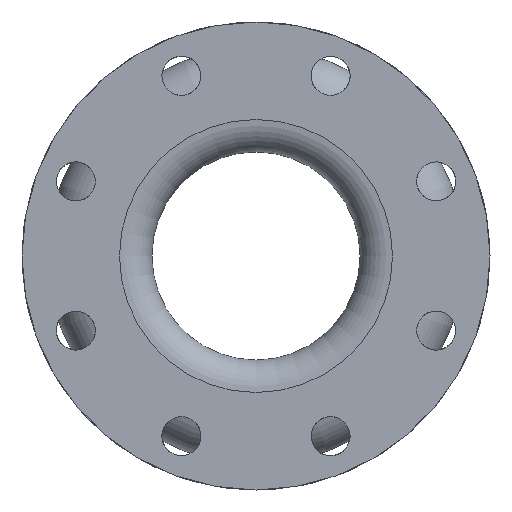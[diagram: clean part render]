
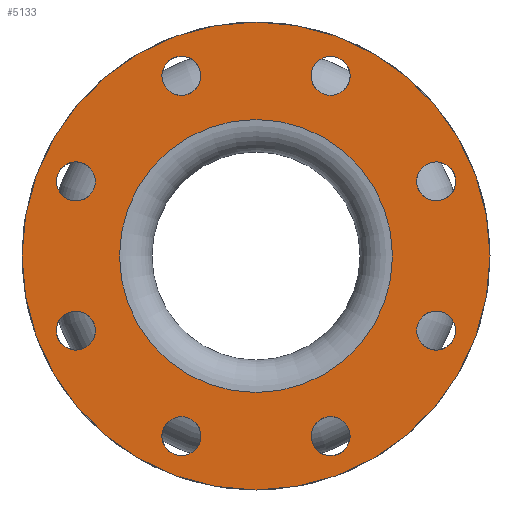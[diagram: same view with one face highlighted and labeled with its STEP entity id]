
A CAD part, left-side view. The second image highlights one B-rep face of the part: STEP entity #5133.
In plain terms, the highlighted planar face has unit normal (-1, 0, 0).
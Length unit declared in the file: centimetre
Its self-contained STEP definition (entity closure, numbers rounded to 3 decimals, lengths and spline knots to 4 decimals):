
#82=FACE_BOUND('',#891,.T.);
#83=FACE_BOUND('',#892,.T.);
#84=FACE_BOUND('',#893,.T.);
#85=FACE_BOUND('',#894,.T.);
#86=FACE_BOUND('',#895,.T.);
#87=FACE_BOUND('',#896,.T.);
#88=FACE_BOUND('',#897,.T.);
#89=FACE_BOUND('',#898,.T.);
#90=FACE_BOUND('',#899,.T.);
#91=FACE_BOUND('',#900,.T.);
#891=EDGE_LOOP('',(#3907));
#892=EDGE_LOOP('',(#3908));
#893=EDGE_LOOP('',(#3909));
#894=EDGE_LOOP('',(#3910));
#895=EDGE_LOOP('',(#3911));
#896=EDGE_LOOP('',(#3912));
#897=EDGE_LOOP('',(#3913));
#898=EDGE_LOOP('',(#3914));
#899=EDGE_LOOP('',(#3915));
#900=EDGE_LOOP('',(#3916));
#1316=CIRCLE('',#5601,0.9525);
#1318=CIRCLE('',#5604,0.9525);
#1320=CIRCLE('',#5607,0.9525);
#1322=CIRCLE('',#5610,0.9525);
#1324=CIRCLE('',#5613,0.9525);
#1326=CIRCLE('',#5616,0.9525);
#1328=CIRCLE('',#5619,0.9525);
#1330=CIRCLE('',#5622,0.9525);
#1358=CIRCLE('',#5669,6.6675);
#1359=CIRCLE('',#5671,11.43);
#2250=VERTEX_POINT('',#8473);
#2252=VERTEX_POINT('',#8478);
#2254=VERTEX_POINT('',#8483);
#2256=VERTEX_POINT('',#8488);
#2258=VERTEX_POINT('',#8493);
#2260=VERTEX_POINT('',#8498);
#2262=VERTEX_POINT('',#8503);
#2264=VERTEX_POINT('',#8508);
#2292=VERTEX_POINT('',#8583);
#2293=VERTEX_POINT('',#8586);
#2842=EDGE_CURVE('',#2250,#2250,#1316,.T.);
#2844=EDGE_CURVE('',#2252,#2252,#1318,.T.);
#2846=EDGE_CURVE('',#2254,#2254,#1320,.T.);
#2848=EDGE_CURVE('',#2256,#2256,#1322,.T.);
#2850=EDGE_CURVE('',#2258,#2258,#1324,.T.);
#2852=EDGE_CURVE('',#2260,#2260,#1326,.T.);
#2854=EDGE_CURVE('',#2262,#2262,#1328,.T.);
#2856=EDGE_CURVE('',#2264,#2264,#1330,.T.);
#2884=EDGE_CURVE('',#2292,#2292,#1358,.T.);
#2885=EDGE_CURVE('',#2293,#2293,#1359,.T.);
#3907=ORIENTED_EDGE('',*,*,#2842,.T.);
#3908=ORIENTED_EDGE('',*,*,#2844,.T.);
#3909=ORIENTED_EDGE('',*,*,#2846,.T.);
#3910=ORIENTED_EDGE('',*,*,#2848,.T.);
#3911=ORIENTED_EDGE('',*,*,#2850,.T.);
#3912=ORIENTED_EDGE('',*,*,#2852,.T.);
#3913=ORIENTED_EDGE('',*,*,#2854,.T.);
#3914=ORIENTED_EDGE('',*,*,#2856,.T.);
#3915=ORIENTED_EDGE('',*,*,#2885,.F.);
#3916=ORIENTED_EDGE('',*,*,#2884,.T.);
#4649=PLANE('',#5670);
#5133=ADVANCED_FACE('',(#82,#83,#84,#85,#86,#87,#88,#89,#90,#91),#4649,
 .T.);
#5601=AXIS2_PLACEMENT_3D('',#8474,#6781,#6782);
#5604=AXIS2_PLACEMENT_3D('',#8479,#6787,#6788);
#5607=AXIS2_PLACEMENT_3D('',#8484,#6793,#6794);
#5610=AXIS2_PLACEMENT_3D('',#8489,#6799,#6800);
#5613=AXIS2_PLACEMENT_3D('',#8494,#6805,#6806);
#5616=AXIS2_PLACEMENT_3D('',#8499,#6811,#6812);
#5619=AXIS2_PLACEMENT_3D('',#8504,#6817,#6818);
#5622=AXIS2_PLACEMENT_3D('',#8509,#6823,#6824);
#5669=AXIS2_PLACEMENT_3D('',#8584,#6917,#6918);
#5670=AXIS2_PLACEMENT_3D('',#8585,#6919,#6920);
#5671=AXIS2_PLACEMENT_3D('',#8587,#6921,#6922);
#6781=DIRECTION('center_axis',(1.,0.,0.));
#6782=DIRECTION('ref_axis',(0.,-0.707,0.707));
#6787=DIRECTION('center_axis',(1.,0.,0.));
#6788=DIRECTION('ref_axis',(0.,0.,1.));
#6793=DIRECTION('center_axis',(1.,0.,0.));
#6794=DIRECTION('ref_axis',(0.,0.707,0.707));
#6799=DIRECTION('center_axis',(1.,0.,0.));
#6800=DIRECTION('ref_axis',(0.,1.,0.));
#6805=DIRECTION('center_axis',(1.,0.,0.));
#6806=DIRECTION('ref_axis',(0.,0.707,-0.707));
#6811=DIRECTION('center_axis',(1.,0.,0.));
#6812=DIRECTION('ref_axis',(0.,0.,-1.));
#6817=DIRECTION('center_axis',(1.,0.,0.));
#6818=DIRECTION('ref_axis',(0.,-0.707,-0.707));
#6823=DIRECTION('center_axis',(1.,0.,0.));
#6824=DIRECTION('ref_axis',(0.,-1.,0.));
#6917=DIRECTION('center_axis',(1.,0.,0.));
#6918=DIRECTION('ref_axis',(0.,0.,-1.));
#6919=DIRECTION('center_axis',(-1.,0.,0.));
#6920=DIRECTION('ref_axis',(0.,0.,1.));
#6921=DIRECTION('center_axis',(1.,0.,0.));
#6922=DIRECTION('ref_axis',(0.,0.,-1.));
#8473=CARTESIAN_POINT('',(-12.7,4.3186,-9.4735));
#8474=CARTESIAN_POINT('Origin',(-12.7,3.6451,-8.8));
#8478=CARTESIAN_POINT('',(-12.7,-3.6451,-9.7525));
#8479=CARTESIAN_POINT('Origin',(-12.7,-3.6451,-8.8));
#8483=CARTESIAN_POINT('',(-12.7,-9.4735,-4.3186));
#8484=CARTESIAN_POINT('Origin',(-12.7,-8.8,-3.6451));
#8488=CARTESIAN_POINT('',(-12.7,-9.7525,3.6451));
#8489=CARTESIAN_POINT('Origin',(-12.7,-8.8,3.6451));
#8493=CARTESIAN_POINT('',(-12.7,-4.3186,9.4735));
#8494=CARTESIAN_POINT('Origin',(-12.7,-3.6451,8.8));
#8498=CARTESIAN_POINT('',(-12.7,3.6451,9.7525));
#8499=CARTESIAN_POINT('Origin',(-12.7,3.6451,8.8));
#8503=CARTESIAN_POINT('',(-12.7,9.4735,4.3186));
#8504=CARTESIAN_POINT('Origin',(-12.7,8.8,3.6451));
#8508=CARTESIAN_POINT('',(-12.7,9.7525,-3.6451));
#8509=CARTESIAN_POINT('Origin',(-12.7,8.8,-3.6451));
#8583=CARTESIAN_POINT('',(-12.7,6.6675,0.));
#8584=CARTESIAN_POINT('Origin',(-12.7,0.,0.));
#8585=CARTESIAN_POINT('Origin',(-12.7,11.43,0.));
#8586=CARTESIAN_POINT('',(-12.7,11.43,0.));
#8587=CARTESIAN_POINT('Origin',(-12.7,0.,0.));
